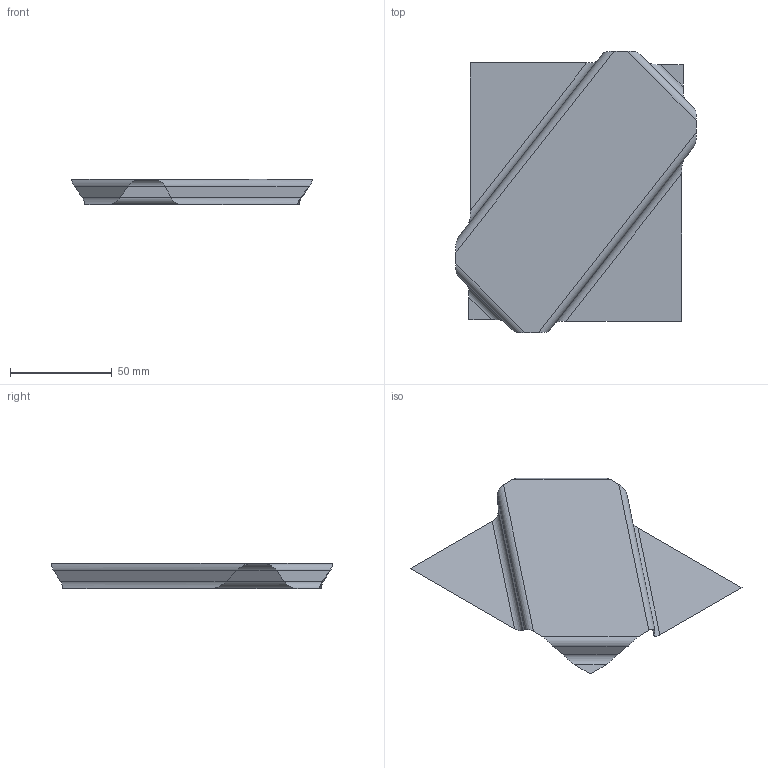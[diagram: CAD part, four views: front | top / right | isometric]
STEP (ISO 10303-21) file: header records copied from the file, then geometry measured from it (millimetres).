
FILE_DESCRIPTION(('CATIA V5 STEP Exchange'),'2;1');
FILE_NAME('C:\_Andres\UNIVERSIDAD\IQS\ASIGNATURAS\DAO\EXF\EXF-15161c\1original\Vila_Vaquer_Ej03-chapa_v28.stp','2016-03-04T16:56:19+00:00',('none'),('none'),'CATIA Version 5 Release 20 SP 1 (IN-10)','CATIA V5 STEP AP203','none');
FILE_SCHEMA(('CONFIG_CONTROL_DESIGN'));
Length unit declared in the file: millimetre
Products named in the file (1): Vila_Vaquer_Ej03-chapa_v28
Bounding box: 118.01 x 138.01 x 12.29 mm (x, y, z)
Surface area: 16332.9 mm2 (no closed solid volume)
Topology: 0 solids, 1 shells, 17 faces, 52 edges, 36 vertices
Faces by surface type: plane 9, cylinder 8
Entity records: 623 total; most frequent: CARTESIAN_POINT 202, ORIENTED_EDGE 68, DIRECTION 57, EDGE_CURVE 52, VERTEX_POINT 36, B_SPLINE_CURVE_WITH_KNOTS 31, VECTOR 21, LINE 21
